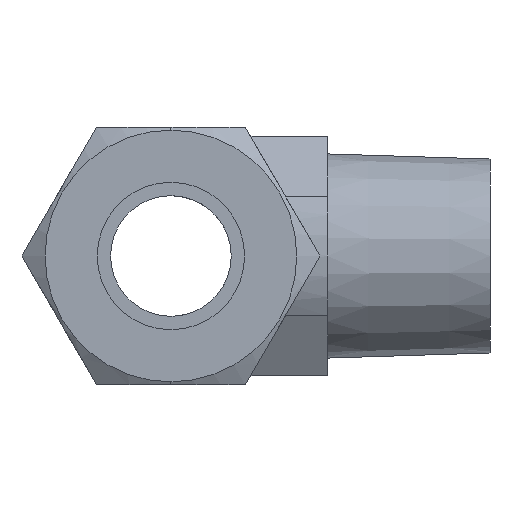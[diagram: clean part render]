
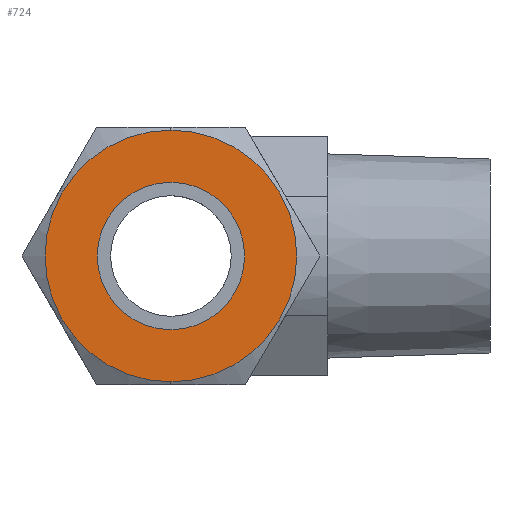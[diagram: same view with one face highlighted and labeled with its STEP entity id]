
A CAD part, left-side view. The second image highlights one B-rep face of the part: STEP entity #724.
In plain terms, the highlighted planar face has unit normal (-1, 0, 0).
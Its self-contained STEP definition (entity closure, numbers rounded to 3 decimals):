
#47 = VERTEX_POINT ( 'NONE', #868 ) ;
#65 = EDGE_CURVE ( 'NONE', #209, #212, #942, .T. ) ;
#209 = VERTEX_POINT ( 'NONE', #1231 ) ;
#212 = VERTEX_POINT ( 'NONE', #1230 ) ;
#215 = VERTEX_POINT ( 'NONE', #1229 ) ;
#216 = EDGE_CURVE ( 'NONE', #215, #47, #1226, .T. ) ;
#701 = ORIENTED_EDGE ( 'NONE', *, *, #702, .F. ) ;
#702 = EDGE_CURVE ( 'NONE', #212, #209, #2148, .T. ) ;
#703 = ORIENTED_EDGE ( 'NONE', *, *, #65, .F. ) ;
#704 = EDGE_LOOP ( 'NONE', ( #705, #706 ) ) ;
#705 = ORIENTED_EDGE ( 'NONE', *, *, #216, .T. ) ;
#706 = ORIENTED_EDGE ( 'NONE', *, *, #723, .T. ) ;
#723 = EDGE_CURVE ( 'NONE', #47, #215, #2190, .T. ) ;
#724 = ADVANCED_FACE ( 'NONE', ( #2181, #2180 ), #2179, .T. ) ;
#725 = EDGE_LOOP ( 'NONE', ( #701, #703 ) ) ;
#868 = CARTESIAN_POINT ( 'NONE',  ( -35.2, 0., -6.35 ) ) ;
#938 = DIRECTION ( 'NONE',  ( 0., 0., -1. ) ) ;
#939 = DIRECTION ( 'NONE',  ( 1., 0., 0. ) ) ;
#940 = CARTESIAN_POINT ( 'NONE',  ( -35.2, 0., 0. ) ) ;
#941 = AXIS2_PLACEMENT_3D ( 'NONE', #940, #939, #938 ) ;
#942 = CIRCLE ( 'NONE', #941, 10.85 ) ;
#980 = AXIS2_PLACEMENT_3D ( 'NONE', #983, #982, #986 ) ;
#982 = DIRECTION ( 'NONE',  ( 1., 0., 0. ) ) ;
#983 = CARTESIAN_POINT ( 'NONE',  ( -35.2, 0., 0. ) ) ;
#986 = DIRECTION ( 'NONE',  ( 0., 0., -1. ) ) ;
#1226 = CIRCLE ( 'NONE', #980, 6.35 ) ;
#1229 = CARTESIAN_POINT ( 'NONE',  ( -35.2, 0., 6.35 ) ) ;
#1230 = CARTESIAN_POINT ( 'NONE',  ( -35.2, 0., 10.85 ) ) ;
#1231 = CARTESIAN_POINT ( 'NONE',  ( -35.2, 0., -10.85 ) ) ;
#2140 = DIRECTION ( 'NONE',  ( 0., 0., -1. ) ) ;
#2141 = DIRECTION ( 'NONE',  ( 1., 0., 0. ) ) ;
#2142 = CARTESIAN_POINT ( 'NONE',  ( -35.2, 0., 0. ) ) ;
#2143 = AXIS2_PLACEMENT_3D ( 'NONE', #2142, #2141, #2140 ) ;
#2148 = CIRCLE ( 'NONE', #2143, 10.85 ) ;
#2174 = DIRECTION ( 'NONE',  ( 0., 0., -1. ) ) ;
#2175 = DIRECTION ( 'NONE',  ( -1., 0., 0. ) ) ;
#2176 = AXIS2_PLACEMENT_3D ( 'NONE', #2178, #2175, #2174 ) ;
#2178 = CARTESIAN_POINT ( 'NONE',  ( -35.2, 12.834, 0. ) ) ;
#2179 = PLANE ( 'NONE',  #2176 ) ;
#2180 = FACE_BOUND ( 'NONE', #704, .T. ) ;
#2181 = FACE_OUTER_BOUND ( 'NONE', #725, .T. ) ;
#2182 = DIRECTION ( 'NONE',  ( 0., 0., -1. ) ) ;
#2183 = DIRECTION ( 'NONE',  ( 1., 0., 0. ) ) ;
#2184 = CARTESIAN_POINT ( 'NONE',  ( -35.2, 0., 0. ) ) ;
#2185 = AXIS2_PLACEMENT_3D ( 'NONE', #2184, #2183, #2182 ) ;
#2190 = CIRCLE ( 'NONE', #2185, 6.35 ) ;
